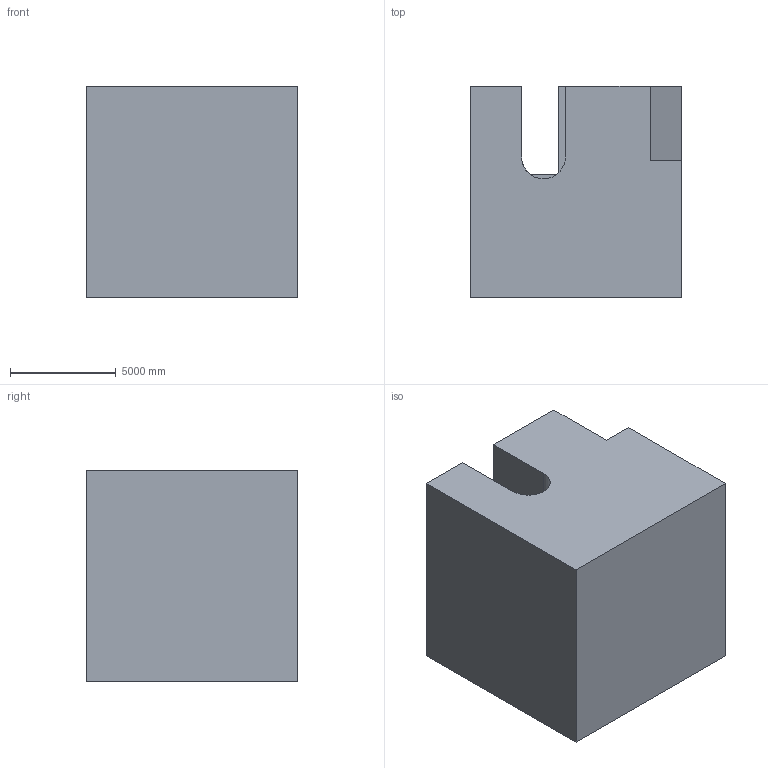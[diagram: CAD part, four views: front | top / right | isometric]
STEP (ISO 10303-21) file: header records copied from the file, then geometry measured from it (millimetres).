
FILE_DESCRIPTION (( 'STEP AP203' ), '1' );
FILE_NAME ('246.STEP', '2022-07-28T14:05:19', ( 'user' ), ( '' ), 'SwSTEP 2.0', 'SolidWorks 2021', '' );
FILE_SCHEMA (( 'CONFIG_CONTROL_DESIGN' ));
Length unit declared in the file: centimetre
Products named in the file (1): 246
Bounding box: 10000 x 10000 x 10000 mm (x, y, z)
Volume: 895472985397.7 mm3; surface area: 662093035.1 mm2
Topology: 1 solids, 1 shells, 19 faces, 51 edges, 34 vertices
Faces by surface type: plane 18, cylinder 1
Entity records: 667 total; most frequent: CARTESIAN_POINT 105, ORIENTED_EDGE 102, DIRECTION 96, EDGE_CURVE 51, VECTOR 46, LINE 46, VERTEX_POINT 34, AXIS2_PLACEMENT_3D 25
